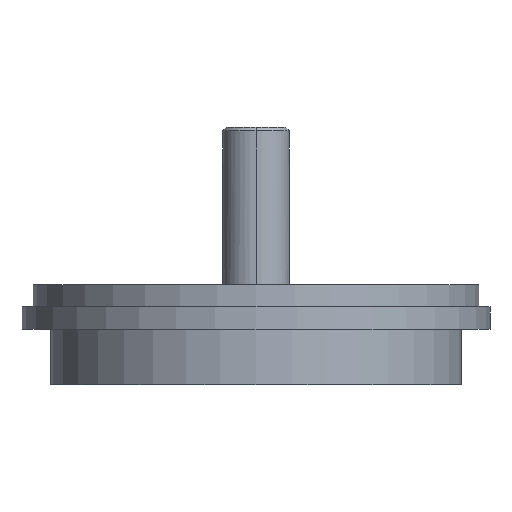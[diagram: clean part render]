
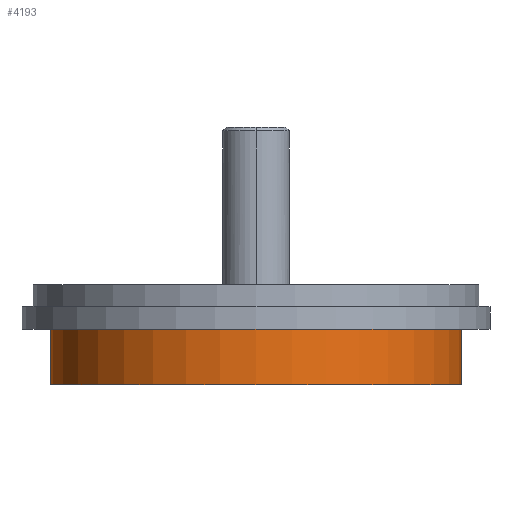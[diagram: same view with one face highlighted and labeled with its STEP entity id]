
A CAD part, front view. The second image highlights one B-rep face of the part: STEP entity #4193.
In plain terms, the highlighted cylindrical face has radius 29.3 mm (diameter 58.6 mm), a partial arc.
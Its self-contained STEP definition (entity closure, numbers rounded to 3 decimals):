
#116 = VERTEX_POINT ( 'NONE', #6623 ) ;
#312 = DIRECTION ( 'NONE',  ( 0., 0., 1. ) ) ;
#827 = CARTESIAN_POINT ( 'NONE',  ( -29.3, 0., 8.62 ) ) ;
#933 = EDGE_LOOP ( 'NONE', ( #1708, #5567, #2936, #6147 ) ) ;
#1277 = EDGE_CURVE ( 'NONE', #6236, #116, #5139, .T. ) ;
#1297 = VECTOR ( 'NONE', #4527, 1000. ) ;
#1309 = CARTESIAN_POINT ( 'NONE',  ( 0., 0., -0.27 ) ) ;
#1389 = DIRECTION ( 'NONE',  ( 0., 0., -1. ) ) ;
#1708 = ORIENTED_EDGE ( 'NONE', *, *, #3129, .F. ) ;
#1851 = DIRECTION ( 'NONE',  ( -1., 0., 0. ) ) ;
#2477 = AXIS2_PLACEMENT_3D ( 'NONE', #4543, #312, #6570 ) ;
#2936 = ORIENTED_EDGE ( 'NONE', *, *, #6312, .T. ) ;
#3128 = EDGE_CURVE ( 'NONE', #3506, #6204, #3448, .T. ) ;
#3129 = EDGE_CURVE ( 'NONE', #116, #3506, #3616, .T. ) ;
#3396 = CARTESIAN_POINT ( 'NONE',  ( 29.3, 0., 8.62 ) ) ;
#3448 = CIRCLE ( 'NONE', #5583, 29.3 ) ;
#3506 = VERTEX_POINT ( 'NONE', #5400 ) ;
#3616 = LINE ( 'NONE', #3396, #6251 ) ;
#4093 = LINE ( 'NONE', #827, #1297 ) ;
#4193 = ADVANCED_FACE ( 'NONE', ( #5182 ), #5936, .T. ) ;
#4527 = DIRECTION ( 'NONE',  ( 0., 0., -1. ) ) ;
#4543 = CARTESIAN_POINT ( 'NONE',  ( 0., 0., 7.62 ) ) ;
#4549 = CARTESIAN_POINT ( 'NONE',  ( -29.3, 0., -0.27 ) ) ;
#4971 = AXIS2_PLACEMENT_3D ( 'NONE', #6142, #1389, #5644 ) ;
#5012 = DIRECTION ( 'NONE',  ( 0., 0., -1. ) ) ;
#5139 = CIRCLE ( 'NONE', #2477, 29.3 ) ;
#5182 = FACE_OUTER_BOUND ( 'NONE', #933, .T. ) ;
#5400 = CARTESIAN_POINT ( 'NONE',  ( 29.3, 0., -0.27 ) ) ;
#5567 = ORIENTED_EDGE ( 'NONE', *, *, #1277, .F. ) ;
#5583 = AXIS2_PLACEMENT_3D ( 'NONE', #1309, #5012, #1851 ) ;
#5644 = DIRECTION ( 'NONE',  ( -1., 0., 0. ) ) ;
#5936 = CYLINDRICAL_SURFACE ( 'NONE', #4971, 29.3 ) ;
#6142 = CARTESIAN_POINT ( 'NONE',  ( 0., 0., 8.62 ) ) ;
#6147 = ORIENTED_EDGE ( 'NONE', *, *, #3128, .F. ) ;
#6161 = CARTESIAN_POINT ( 'NONE',  ( -29.3, 0., 7.62 ) ) ;
#6204 = VERTEX_POINT ( 'NONE', #4549 ) ;
#6236 = VERTEX_POINT ( 'NONE', #6161 ) ;
#6251 = VECTOR ( 'NONE', #6562, 1000. ) ;
#6312 = EDGE_CURVE ( 'NONE', #6236, #6204, #4093, .T. ) ;
#6562 = DIRECTION ( 'NONE',  ( 0., 0., -1. ) ) ;
#6570 = DIRECTION ( 'NONE',  ( -1., 0., 0. ) ) ;
#6623 = CARTESIAN_POINT ( 'NONE',  ( 29.3, 0., 7.62 ) ) ;
